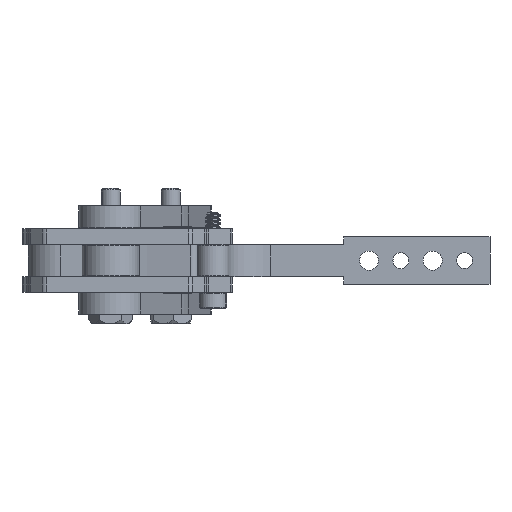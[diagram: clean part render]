
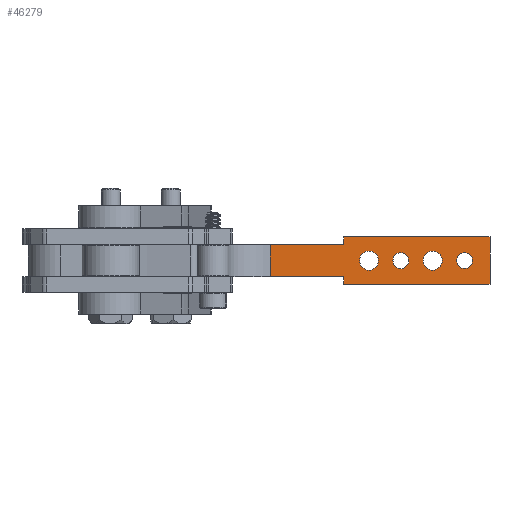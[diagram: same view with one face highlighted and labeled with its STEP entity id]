
A CAD part, front view. The second image highlights one B-rep face of the part: STEP entity #46279.
In plain terms, the highlighted planar face has unit normal (0, -1, 0).
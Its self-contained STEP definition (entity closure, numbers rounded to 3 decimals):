
#333 = ORIENTED_EDGE ( 'NONE', *, *, #42239, .F. ) ;
#1813 = CIRCLE ( 'NONE', #32772, 2.5 ) ;
#2558 = CARTESIAN_POINT ( 'NONE',  ( -107., 4., 7.5 ) ) ;
#3168 = VECTOR ( 'NONE', #36775, 1000. ) ;
#3544 = EDGE_CURVE ( 'NONE', #45487, #23969, #36409, .T. ) ;
#3888 = LINE ( 'NONE', #16257, #38657 ) ;
#4205 = EDGE_CURVE ( 'NONE', #24128, #31418, #15600, .T. ) ;
#5190 = DIRECTION ( 'NONE',  ( 0., 0., 1. ) ) ;
#5530 = VERTEX_POINT ( 'NONE', #44858 ) ;
#5634 = EDGE_CURVE ( 'NONE', #14136, #41838, #21065, .T. ) ;
#5940 = EDGE_LOOP ( 'NONE', ( #48112, #6635 ) ) ;
#6153 = AXIS2_PLACEMENT_3D ( 'NONE', #12932, #39997, #5190 ) ;
#6208 = CARTESIAN_POINT ( 'NONE',  ( -89., 4., 10. ) ) ;
#6315 = VERTEX_POINT ( 'NONE', #17193 ) ;
#6406 = CARTESIAN_POINT ( 'NONE',  ( -107., 4., 10. ) ) ;
#6635 = ORIENTED_EDGE ( 'NONE', *, *, #29258, .F. ) ;
#6648 = EDGE_CURVE ( 'NONE', #31418, #6315, #40525, .T. ) ;
#6777 = DIRECTION ( 'NONE',  ( 0., -1., 0. ) ) ;
#7454 = FACE_OUTER_BOUND ( 'NONE', #43332, .T. ) ;
#7868 = DIRECTION ( 'NONE',  ( 0., 0., -1. ) ) ;
#7928 = CARTESIAN_POINT ( 'NONE',  ( -89., 4., 2.5 ) ) ;
#7987 = CARTESIAN_POINT ( 'NONE',  ( -107., 4., 5. ) ) ;
#8655 = EDGE_LOOP ( 'NONE', ( #46777, #36809 ) ) ;
#8898 = DIRECTION ( 'NONE',  ( 0., -1., 0. ) ) ;
#9118 = DIRECTION ( 'NONE',  ( 0., -1., 0. ) ) ;
#9127 = VERTEX_POINT ( 'NONE', #44570 ) ;
#9625 = CARTESIAN_POINT ( 'NONE',  ( -135., 4., 10. ) ) ;
#9707 = CARTESIAN_POINT ( 'NONE',  ( -89., 4., 12.5 ) ) ;
#9932 = CARTESIAN_POINT ( 'NONE',  ( -89., 4., 0. ) ) ;
#10211 = DIRECTION ( 'NONE',  ( 0., 0., 1. ) ) ;
#10242 = AXIS2_PLACEMENT_3D ( 'NONE', #33460, #36925, #26016 ) ;
#10612 = ORIENTED_EDGE ( 'NONE', *, *, #5634, .F. ) ;
#10813 = VERTEX_POINT ( 'NONE', #44080 ) ;
#10871 = CIRCLE ( 'NONE', #27535, 2.5 ) ;
#10953 = FACE_BOUND ( 'NONE', #5940, .T. ) ;
#11069 = ORIENTED_EDGE ( 'NONE', *, *, #4205, .F. ) ;
#11518 = VECTOR ( 'NONE', #13833, 1000. ) ;
#11600 = CARTESIAN_POINT ( 'NONE',  ( -66., 4., 10. ) ) ;
#11824 = AXIS2_PLACEMENT_3D ( 'NONE', #29120, #44245, #10211 ) ;
#11838 = LINE ( 'NONE', #11600, #17437 ) ;
#12054 = VERTEX_POINT ( 'NONE', #47820 ) ;
#12628 = CARTESIAN_POINT ( 'NONE',  ( -97., 4., 7.5 ) ) ;
#12932 = CARTESIAN_POINT ( 'NONE',  ( -107., 4., 7.5 ) ) ;
#13038 = DIRECTION ( 'NONE',  ( 0., -1., 0. ) ) ;
#13163 = DIRECTION ( 'NONE',  ( -1., 0., 0. ) ) ;
#13475 = EDGE_CURVE ( 'NONE', #5530, #17829, #28488, .T. ) ;
#13578 = CIRCLE ( 'NONE', #19123, 3. ) ;
#13833 = DIRECTION ( 'NONE',  ( 0., 0., 1. ) ) ;
#14136 = VERTEX_POINT ( 'NONE', #25419 ) ;
#14324 = DIRECTION ( 'NONE',  ( 0., -1., 0. ) ) ;
#14660 = FACE_BOUND ( 'NONE', #19594, .T. ) ;
#15040 = VECTOR ( 'NONE', #22602, 1000. ) ;
#15142 = ORIENTED_EDGE ( 'NONE', *, *, #25429, .T. ) ;
#15600 = LINE ( 'NONE', #7928, #15040 ) ;
#16257 = CARTESIAN_POINT ( 'NONE',  ( -89., 4., 41.631 ) ) ;
#16322 = DIRECTION ( 'NONE',  ( 1., 0., 0. ) ) ;
#16586 = ORIENTED_EDGE ( 'NONE', *, *, #13475, .F. ) ;
#17193 = CARTESIAN_POINT ( 'NONE',  ( -89., 4., 0. ) ) ;
#17437 = VECTOR ( 'NONE', #7868, 1000. ) ;
#17485 = ORIENTED_EDGE ( 'NONE', *, *, #38375, .F. ) ;
#17829 = VERTEX_POINT ( 'NONE', #45993 ) ;
#17843 = LINE ( 'NONE', #9932, #36357 ) ;
#17930 = ORIENTED_EDGE ( 'NONE', *, *, #39604, .F. ) ;
#19103 = CARTESIAN_POINT ( 'NONE',  ( -135., 4., 0. ) ) ;
#19123 = AXIS2_PLACEMENT_3D ( 'NONE', #22697, #30906, #29920 ) ;
#19594 = EDGE_LOOP ( 'NONE', ( #21631, #16586 ) ) ;
#20243 = DIRECTION ( 'NONE',  ( 0., 0., 1. ) ) ;
#20306 = DIRECTION ( 'NONE',  ( 0., 0., 1. ) ) ;
#20468 = AXIS2_PLACEMENT_3D ( 'NONE', #42939, #8898, #24070 ) ;
#20649 = VERTEX_POINT ( 'NONE', #7987 ) ;
#20679 = CARTESIAN_POINT ( 'NONE',  ( -89., 4., 15. ) ) ;
#21065 = LINE ( 'NONE', #28045, #39715 ) ;
#21631 = ORIENTED_EDGE ( 'NONE', *, *, #23473, .F. ) ;
#21632 = ORIENTED_EDGE ( 'NONE', *, *, #6648, .F. ) ;
#21645 = FACE_BOUND ( 'NONE', #42120, .T. ) ;
#21754 = CARTESIAN_POINT ( 'NONE',  ( -127., 4., 10. ) ) ;
#21775 = CARTESIAN_POINT ( 'NONE',  ( -97., 4., 7.5 ) ) ;
#22346 = CIRCLE ( 'NONE', #31078, 3. ) ;
#22602 = DIRECTION ( 'NONE',  ( -1., 0., 0. ) ) ;
#22697 = CARTESIAN_POINT ( 'NONE',  ( -117., 4., 7.5 ) ) ;
#23473 = EDGE_CURVE ( 'NONE', #17829, #5530, #22346, .T. ) ;
#23969 = VERTEX_POINT ( 'NONE', #35947 ) ;
#24070 = DIRECTION ( 'NONE',  ( 0., 0., 1. ) ) ;
#24128 = VERTEX_POINT ( 'NONE', #30846 ) ;
#24401 = VERTEX_POINT ( 'NONE', #6406 ) ;
#24539 = AXIS2_PLACEMENT_3D ( 'NONE', #12628, #9118, #20306 ) ;
#24722 = VECTOR ( 'NONE', #29099, 1000. ) ;
#24877 = LINE ( 'NONE', #9707, #24722 ) ;
#25419 = CARTESIAN_POINT ( 'NONE',  ( -135., 4., 15. ) ) ;
#25429 = EDGE_CURVE ( 'NONE', #10813, #12054, #24877, .T. ) ;
#26016 = DIRECTION ( 'NONE',  ( 0., 0., 1. ) ) ;
#26852 = CIRCLE ( 'NONE', #6153, 2.5 ) ;
#27535 = AXIS2_PLACEMENT_3D ( 'NONE', #43340, #13038, #20243 ) ;
#28045 = CARTESIAN_POINT ( 'NONE',  ( -89., 4., 15. ) ) ;
#28488 = CIRCLE ( 'NONE', #24539, 3. ) ;
#29099 = DIRECTION ( 'NONE',  ( -1., 0., 0. ) ) ;
#29120 = CARTESIAN_POINT ( 'NONE',  ( -89., 4., 10. ) ) ;
#29258 = EDGE_CURVE ( 'NONE', #20649, #24401, #1813, .T. ) ;
#29517 = ORIENTED_EDGE ( 'NONE', *, *, #37815, .T. ) ;
#29920 = DIRECTION ( 'NONE',  ( 0., 0., 1. ) ) ;
#29997 = DIRECTION ( 'NONE',  ( 0., 0., 1. ) ) ;
#30846 = CARTESIAN_POINT ( 'NONE',  ( -66., 4., 2.5 ) ) ;
#30906 = DIRECTION ( 'NONE',  ( 0., -1., 0. ) ) ;
#31078 = AXIS2_PLACEMENT_3D ( 'NONE', #21775, #14324, #29997 ) ;
#31418 = VERTEX_POINT ( 'NONE', #37556 ) ;
#31453 = DIRECTION ( 'NONE',  ( 0., 0., 1. ) ) ;
#31747 = EDGE_CURVE ( 'NONE', #24401, #20649, #26852, .T. ) ;
#31977 = LINE ( 'NONE', #9625, #11518 ) ;
#32643 = EDGE_CURVE ( 'NONE', #47602, #9127, #13578, .T. ) ;
#32772 = AXIS2_PLACEMENT_3D ( 'NONE', #2558, #6777, #33627 ) ;
#33311 = PLANE ( 'NONE',  #11824 ) ;
#33460 = CARTESIAN_POINT ( 'NONE',  ( -127., 4., 7.5 ) ) ;
#33627 = DIRECTION ( 'NONE',  ( 0., 0., 1. ) ) ;
#33791 = FACE_BOUND ( 'NONE', #8655, .T. ) ;
#35947 = CARTESIAN_POINT ( 'NONE',  ( -127., 4., 5. ) ) ;
#36357 = VECTOR ( 'NONE', #13163, 1000. ) ;
#36409 = CIRCLE ( 'NONE', #10242, 2.5 ) ;
#36666 = EDGE_CURVE ( 'NONE', #48278, #14136, #31977, .T. ) ;
#36775 = DIRECTION ( 'NONE',  ( 0., 0., -1. ) ) ;
#36809 = ORIENTED_EDGE ( 'NONE', *, *, #42376, .F. ) ;
#36925 = DIRECTION ( 'NONE',  ( 0., -1., 0. ) ) ;
#37556 = CARTESIAN_POINT ( 'NONE',  ( -89., 4., 2.5 ) ) ;
#37815 = EDGE_CURVE ( 'NONE', #12054, #41838, #3888, .T. ) ;
#38375 = EDGE_CURVE ( 'NONE', #9127, #47602, #42662, .T. ) ;
#38657 = VECTOR ( 'NONE', #31453, 1000. ) ;
#39604 = EDGE_CURVE ( 'NONE', #6315, #48278, #17843, .T. ) ;
#39715 = VECTOR ( 'NONE', #16322, 1000. ) ;
#39997 = DIRECTION ( 'NONE',  ( 0., -1., 0. ) ) ;
#40525 = LINE ( 'NONE', #6208, #3168 ) ;
#41207 = ORIENTED_EDGE ( 'NONE', *, *, #36666, .F. ) ;
#41838 = VERTEX_POINT ( 'NONE', #20679 ) ;
#42120 = EDGE_LOOP ( 'NONE', ( #43473, #17485 ) ) ;
#42239 = EDGE_CURVE ( 'NONE', #10813, #24128, #11838, .T. ) ;
#42376 = EDGE_CURVE ( 'NONE', #23969, #45487, #10871, .T. ) ;
#42662 = CIRCLE ( 'NONE', #20468, 3. ) ;
#42939 = CARTESIAN_POINT ( 'NONE',  ( -117., 4., 7.5 ) ) ;
#43332 = EDGE_LOOP ( 'NONE', ( #21632, #11069, #333, #15142, #29517, #10612, #41207, #17930 ) ) ;
#43340 = CARTESIAN_POINT ( 'NONE',  ( -127., 4., 7.5 ) ) ;
#43473 = ORIENTED_EDGE ( 'NONE', *, *, #32643, .F. ) ;
#44080 = CARTESIAN_POINT ( 'NONE',  ( -66., 4., 12.5 ) ) ;
#44245 = DIRECTION ( 'NONE',  ( 0., 1., 0. ) ) ;
#44570 = CARTESIAN_POINT ( 'NONE',  ( -117., 4., 4.5 ) ) ;
#44858 = CARTESIAN_POINT ( 'NONE',  ( -97., 4., 4.5 ) ) ;
#45487 = VERTEX_POINT ( 'NONE', #21754 ) ;
#45993 = CARTESIAN_POINT ( 'NONE',  ( -97., 4., 10.5 ) ) ;
#46279 = ADVANCED_FACE ( 'NONE', ( #7454, #10953, #21645, #33791, #14660 ), #33311, .F. ) ;
#46777 = ORIENTED_EDGE ( 'NONE', *, *, #3544, .F. ) ;
#47305 = CARTESIAN_POINT ( 'NONE',  ( -117., 4., 10.5 ) ) ;
#47602 = VERTEX_POINT ( 'NONE', #47305 ) ;
#47820 = CARTESIAN_POINT ( 'NONE',  ( -89., 4., 12.5 ) ) ;
#48112 = ORIENTED_EDGE ( 'NONE', *, *, #31747, .F. ) ;
#48278 = VERTEX_POINT ( 'NONE', #19103 ) ;
